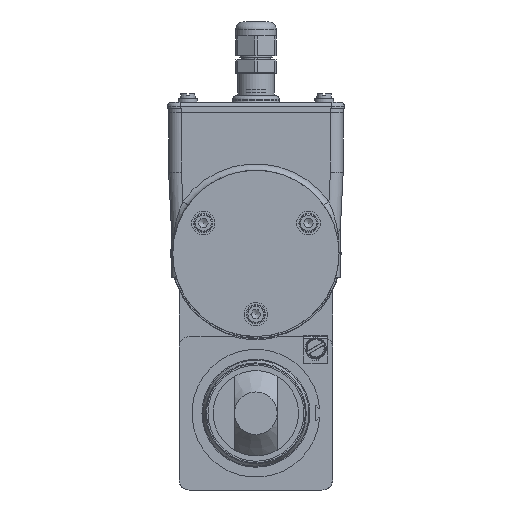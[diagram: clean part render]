
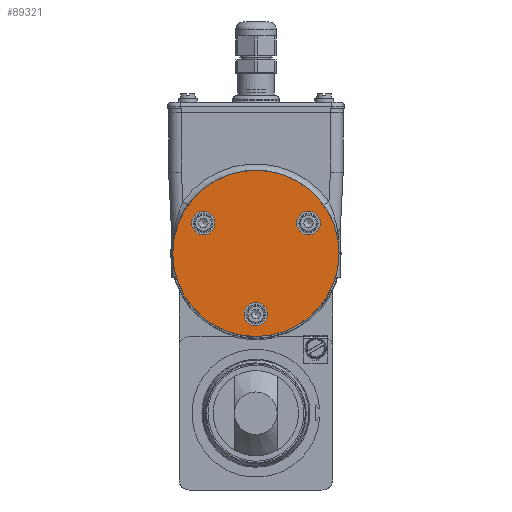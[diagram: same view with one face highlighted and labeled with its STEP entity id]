
A CAD part, front view. The second image highlights one B-rep face of the part: STEP entity #89321.
In plain terms, the highlighted planar face has unit normal (0, -1, 0) as drawn and (0, 1, 0) by its records, which use the part's own axes.
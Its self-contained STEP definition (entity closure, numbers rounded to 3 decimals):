
#15714=PLANE('',#95821);
#35886=ORIENTED_EDGE('',*,*,#46643,.F.);
#35887=ORIENTED_EDGE('',*,*,#46644,.F.);
#35888=ORIENTED_EDGE('',*,*,#46645,.F.);
#35889=ORIENTED_EDGE('',*,*,#46646,.F.);
#46643=EDGE_CURVE('',#53511,#53511,#57211,.T.);
#46644=EDGE_CURVE('',#53512,#53512,#57212,.T.);
#46645=EDGE_CURVE('',#53513,#53513,#57213,.T.);
#46646=EDGE_CURVE('',#53514,#53514,#57214,.T.);
#53511=VERTEX_POINT('',#138201);
#53512=VERTEX_POINT('',#138203);
#53513=VERTEX_POINT('',#138205);
#53514=VERTEX_POINT('',#138207);
#57211=CIRCLE('',#95822,39.);
#57212=CIRCLE('',#95823,5.5);
#57213=CIRCLE('',#95824,5.5);
#57214=CIRCLE('',#95825,5.5);
#60745=EDGE_LOOP('',(#35886));
#60746=EDGE_LOOP('',(#35887));
#60747=EDGE_LOOP('',(#35888));
#60748=EDGE_LOOP('',(#35889));
#64455=FACE_BOUND('',#60745,.T.);
#64456=FACE_BOUND('',#60746,.T.);
#64457=FACE_BOUND('',#60747,.T.);
#64458=FACE_BOUND('',#60748,.T.);
#89321=ADVANCED_FACE('',(#64455,#64456,#64457,#64458),#15714,.T.);
#95821=AXIS2_PLACEMENT_3D('',#138199,#114838,#114839);
#95822=AXIS2_PLACEMENT_3D('',#138200,#114840,#114841);
#95823=AXIS2_PLACEMENT_3D('',#138202,#114842,#114843);
#95824=AXIS2_PLACEMENT_3D('',#138204,#114844,#114845);
#95825=AXIS2_PLACEMENT_3D('',#138206,#114846,#114847);
#114838=DIRECTION('',(0.,1.,0.));
#114839=DIRECTION('',(-1.,0.,0.));
#114840=DIRECTION('',(0.,-1.,0.));
#114841=DIRECTION('',(1.,0.,0.));
#114842=DIRECTION('',(0.,1.,0.));
#114843=DIRECTION('',(-1.,0.,0.));
#114844=DIRECTION('',(0.,1.,0.));
#114845=DIRECTION('',(-1.,0.,0.));
#114846=DIRECTION('',(0.,1.,0.));
#114847=DIRECTION('',(-1.,0.,0.));
#138199=CARTESIAN_POINT('',(0.,87.,39.));
#138200=CARTESIAN_POINT('',(0.,87.,0.));
#138201=CARTESIAN_POINT('',(39.,87.,0.));
#138202=CARTESIAN_POINT('',(-24.682,87.,14.25));
#138203=CARTESIAN_POINT('',(-30.182,87.,14.25));
#138204=CARTESIAN_POINT('',(24.682,87.,14.25));
#138205=CARTESIAN_POINT('',(19.182,87.,14.25));
#138206=CARTESIAN_POINT('',(0.,87.,-28.5));
#138207=CARTESIAN_POINT('',(-5.5,87.,-28.5));
